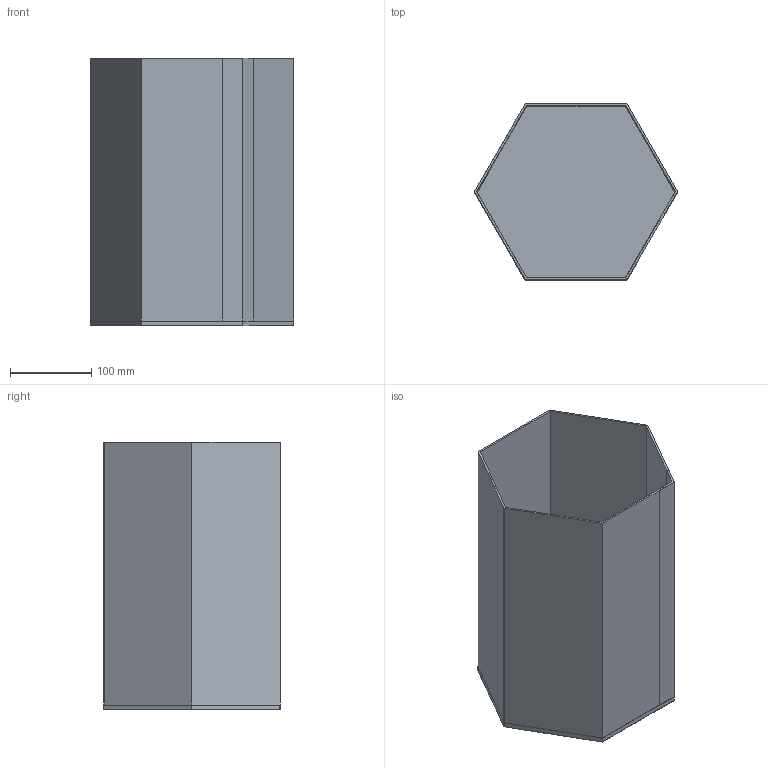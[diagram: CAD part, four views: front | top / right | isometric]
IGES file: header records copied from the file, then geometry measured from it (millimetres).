
Global section: file name: C:\Users\colombo_c\Desktop\Danese\Sito\3D mancanti\Sicilia Cardboard\Sicilia Cardboard.igs; native system: Rhinoceros ( Apr 16 2024 ); preprocessor: Trout Lake IGES 012 Apr 16 2024; date: 250625.135605; units: millimetre
Bounding box: 249.97 x 216.71 x 329 mm (x, y, z)
Surface area: 646033.6 mm2 (no closed solid volume)
Topology: 0 solids, 0 shells, 536 faces, 3127 edges, 3104 vertices
Faces by surface type: bspline 536
